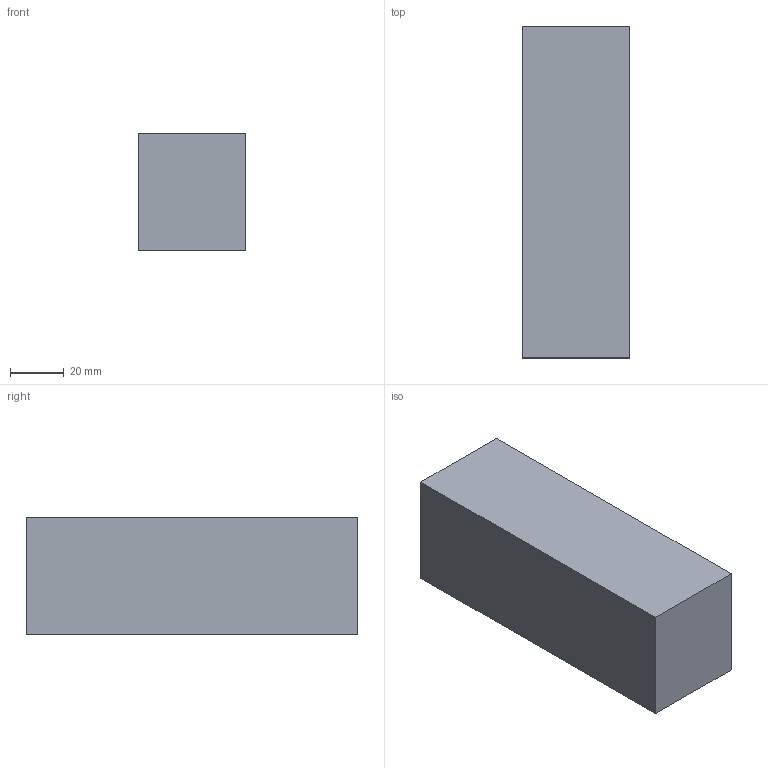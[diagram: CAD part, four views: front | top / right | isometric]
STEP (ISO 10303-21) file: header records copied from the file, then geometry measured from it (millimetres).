
FILE_DESCRIPTION(('Open CASCADE Model'),'2;1');
FILE_NAME('Open CASCADE Shape Model','2026-10-10T15:34:57',('Author'),( 'Open CASCADE'),'Open CASCADE STEP processor 7.9','Open CASCADE 7.9' ,'Unknown');
FILE_SCHEMA(('AUTOMOTIVE_DESIGN { 1 0 10303 214 1 1 1 1 }'));
Length unit declared in the file: millimetre
Products named in the file (1): Open CASCADE STEP translator 7.9 20
Bounding box: 40 x 124 x 44 mm (x, y, z)
Volume: 218240 mm3; surface area: 24352 mm2
Topology: 1 solids, 1 shells, 6 faces, 12 edges, 8 vertices
Faces by surface type: plane 6
Entity records: 322 total; most frequent: CARTESIAN_POINT 51, DIRECTION 50, LINE 36, VECTOR 36, ORIENTED_EDGE 24, PCURVE 24, DEFINITIONAL_REPRESENTATION 24, EDGE_CURVE 12
